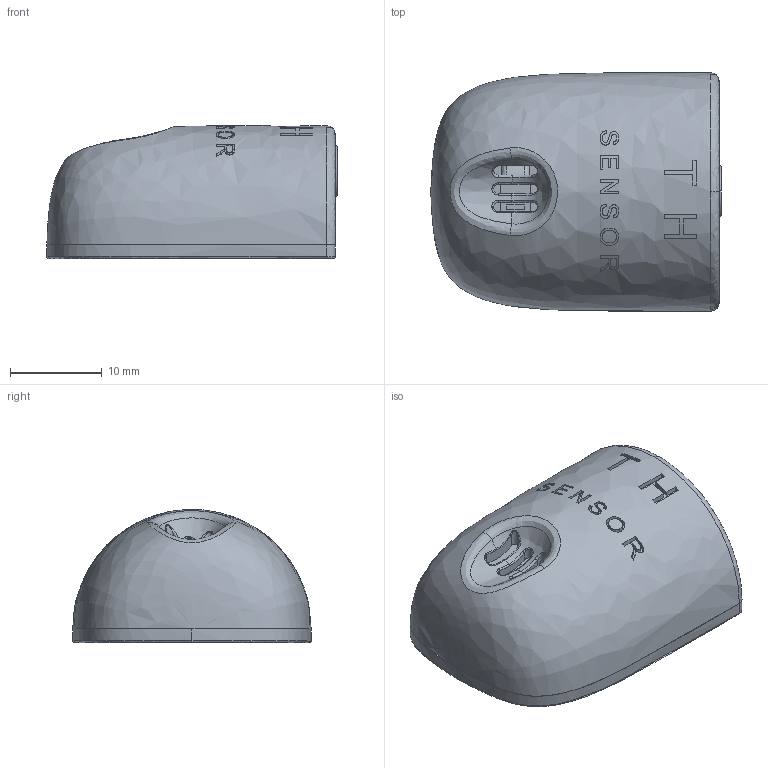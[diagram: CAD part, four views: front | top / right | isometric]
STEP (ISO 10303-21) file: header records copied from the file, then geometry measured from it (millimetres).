
FILE_DESCRIPTION (( 'STEP AP203' ), '1' );
FILE_NAME ('nps2.STEP', '2019-08-15T15:44:18', ( '' ), ( '' ), 'SwSTEP 2.0', 'SolidWorks 2016', '' );
FILE_SCHEMA (( 'CONFIG_CONTROL_DESIGN' ));
Length unit declared in the file: millimetre
Products named in the file (5): nps2; 苤萇赽啣; 菁裔; 裔; 棠沺
Assembly tree (4 placements, depth 2):
  nps2
    苤萇赽啣
    棠沺
    裔
    菁裔
Bounding box: 31.7 x 26.03 x 14.53 mm (x, y, z)
Volume: 5307.6 mm3; surface area: 8587.4 mm2
Topology: 4 solids, 4 shells, 699 faces, 1831 edges, 1103 vertices
Faces by surface type: plane 286, bspline 243, cylinder 170
Entity records: 29962 total; most frequent: CARTESIAN_POINT 14217, ORIENTED_EDGE 3564, DIRECTION 2659, EDGE_CURVE 1782, VERTEX_POINT 1103, AXIS2_PLACEMENT_3D 906, LINE 847, VECTOR 847
